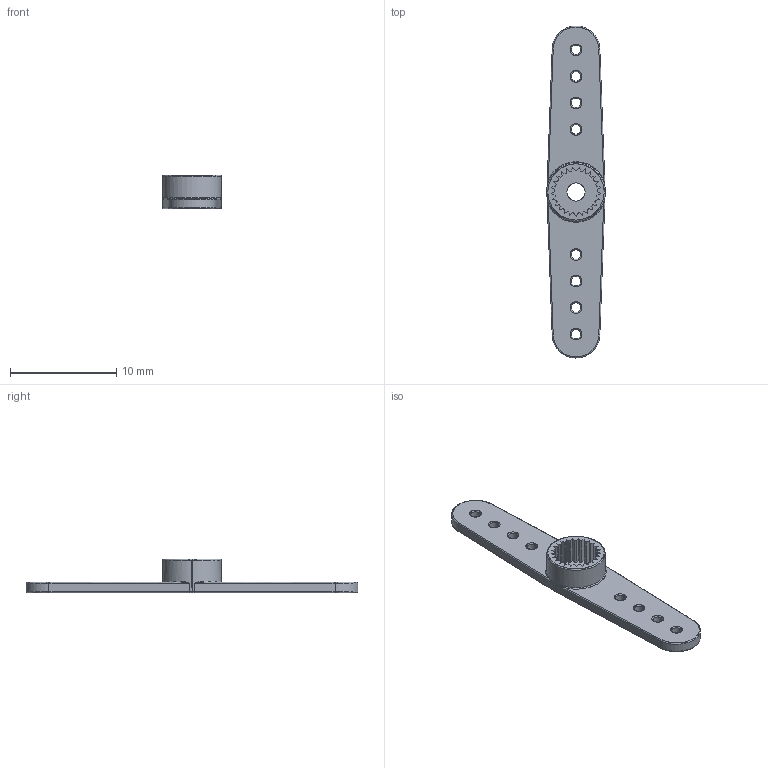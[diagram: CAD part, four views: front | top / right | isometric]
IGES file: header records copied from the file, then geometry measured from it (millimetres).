
Start section: SolidWorks IGES file using analytic representation for surfaces
Global section: file name: C:\Users\Alexandre\Dropbox\Etudes\Solidworks\Servo Mounts\Micro sized Servo Mount - x4_Double Extended .igs; native system: SolidWorks 2015; preprocessor: SolidWorks 2015; author: Alexandre; date: 150906.122309; units: millimetre
Bounding box: 5.5 x 31.3 x 3.2 mm (x, y, z)
Surface area: 467.4 mm2 (no closed solid volume)
Topology: 0 solids, 0 shells, 174 faces, 1354 edges, 1354 vertices
Faces by surface type: bspline 113, revolution 61
